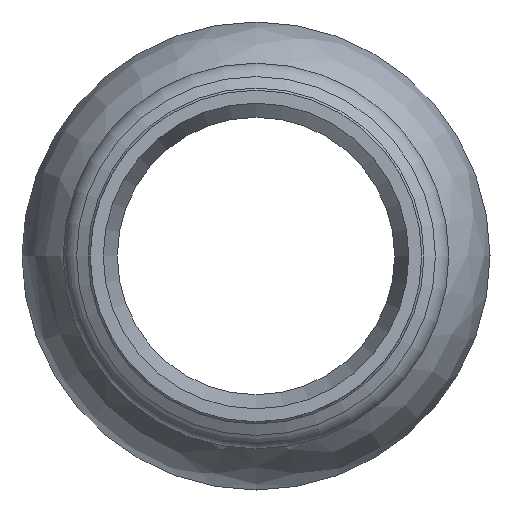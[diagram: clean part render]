
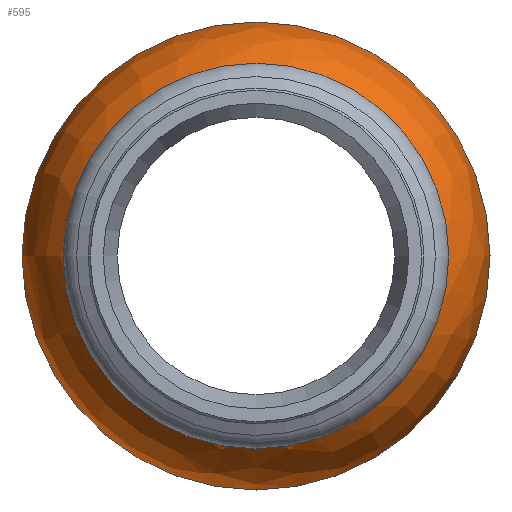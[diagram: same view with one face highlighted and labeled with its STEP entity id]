
A CAD part, left-side view. The second image highlights one B-rep face of the part: STEP entity #595.
In plain terms, the highlighted free-form (B-spline) face has degree [2, 2] with [5, 9] control points.
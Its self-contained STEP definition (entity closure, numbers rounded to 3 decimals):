
#513=CARTESIAN_POINT('',(-1.104,41.856,0.0));
#514=VERTEX_POINT('',#513);
#515=CARTESIAN_POINT('',(-1.104,23.3,0.0));
#516=DIRECTION('',(1.0,0.0,0.0));
#517=DIRECTION('',(0.0,1.0,0.0));
#518=AXIS2_PLACEMENT_3D('',#515,#516,#517);
#519=CIRCLE('',#518,18.556);
#520=EDGE_CURVE('',#514,#514,#519,.T.);
#528=CARTESIAN_POINT('',(1.381,23.3,0.));
#529=CARTESIAN_POINT('',(-5.861,23.3,7.649));
#530=CARTESIAN_POINT('',(-1.697,23.3,17.325));
#531=CARTESIAN_POINT('',(2.467,23.3,27.));
#532=CARTESIAN_POINT('',(13.,23.3,27.));
#533=CARTESIAN_POINT('',(1.381,23.3,0.));
#534=CARTESIAN_POINT('',(-5.861,30.949,7.649));
#535=CARTESIAN_POINT('',(-1.697,40.625,17.325));
#536=CARTESIAN_POINT('',(2.467,50.3,27.));
#537=CARTESIAN_POINT('',(13.,50.3,27.));
#538=CARTESIAN_POINT('',(1.381,23.3,0.));
#539=CARTESIAN_POINT('',(-5.861,30.949,0.));
#540=CARTESIAN_POINT('',(-1.697,40.625,0.0));
#541=CARTESIAN_POINT('',(2.467,50.3,0.));
#542=CARTESIAN_POINT('',(13.,50.3,0.));
#543=CARTESIAN_POINT('',(1.381,23.3,0.));
#544=CARTESIAN_POINT('',(-5.861,30.949,-7.649));
#545=CARTESIAN_POINT('',(-1.697,40.625,-17.325));
#546=CARTESIAN_POINT('',(2.467,50.3,-27.));
#547=CARTESIAN_POINT('',(13.,50.3,-27.));
#548=CARTESIAN_POINT('',(1.381,23.3,0.));
#549=CARTESIAN_POINT('',(-5.861,23.3,-7.649));
#550=CARTESIAN_POINT('',(-1.697,23.3,-17.325));
#551=CARTESIAN_POINT('',(2.467,23.3,-27.));
#552=CARTESIAN_POINT('',(13.,23.3,-27.));
#553=CARTESIAN_POINT('',(1.381,23.3,0.));
#554=CARTESIAN_POINT('',(-5.861,15.651,-7.649));
#555=CARTESIAN_POINT('',(-1.697,5.975,-17.325));
#556=CARTESIAN_POINT('',(2.467,-3.7,-27.));
#557=CARTESIAN_POINT('',(13.,-3.7,-27.));
#558=CARTESIAN_POINT('',(1.381,23.3,0.));
#559=CARTESIAN_POINT('',(-5.861,15.651,0.));
#560=CARTESIAN_POINT('',(-1.697,5.975,0.0));
#561=CARTESIAN_POINT('',(2.467,-3.7,0.));
#562=CARTESIAN_POINT('',(13.,-3.7,0.));
#563=CARTESIAN_POINT('',(1.381,23.3,0.));
#564=CARTESIAN_POINT('',(-5.861,15.651,7.649));
#565=CARTESIAN_POINT('',(-1.697,5.975,17.325));
#566=CARTESIAN_POINT('',(2.467,-3.7,27.));
#567=CARTESIAN_POINT('',(13.,-3.7,27.));
#568=CARTESIAN_POINT('',(1.381,23.3,0.));
#569=CARTESIAN_POINT('',(-5.861,23.3,7.649));
#570=CARTESIAN_POINT('',(-1.697,23.3,17.325));
#571=CARTESIAN_POINT('',(2.467,23.3,27.));
#572=CARTESIAN_POINT('',(13.,23.3,27.));
#580=(BOUNDED_SURFACE()B_SPLINE_SURFACE(2,2,((#528,#533,#538,#543,#548,#553,#558,#563,#568),(#529,#534,#539,#544,#549,#554,#559,#564,#569),(#530,#535,#540,#545,#550,#555,#560,#565,#570),(#531,#536,#541,#546,#551,#556,#561,#566,#571),(#532,#537,#542,#547,#552,#557,#562,#567,#572)),.UNSPECIFIED.,.F.,.T.,.U.)B_SPLINE_SURFACE_WITH_KNOTS((3,2,3),(3,2,2,2,3),(-2.329,-1.164,0.0),(0.0,1.571,3.142,4.712,6.283),.UNSPECIFIED.)GEOMETRIC_REPRESENTATION_ITEM()RATIONAL_B_SPLINE_SURFACE(((1.0,0.707,1.0,0.707,1.0,0.707,1.0,0.707,1.0),(0.835,0.591,0.835,0.591,0.835,0.591,0.835,0.591,0.835),(1.0,0.707,1.0,0.707,1.0,0.707,1.0,0.707,1.0),(0.835,0.591,0.835,0.591,0.835,0.591,0.835,0.591,0.835),(1.0,0.707,1.0,0.707,1.0,0.707,1.0,0.707,1.0)))REPRESENTATION_ITEM('')SURFACE());
#581=CARTESIAN_POINT('',(13.,50.3,0.0));
#582=VERTEX_POINT('',#581);
#583=CARTESIAN_POINT('',(13.,23.3,0.0));
#584=DIRECTION('',(1.0,0.0,0.0));
#585=DIRECTION('',(0.0,1.0,0.0));
#586=AXIS2_PLACEMENT_3D('',#583,#584,#585);
#587=CIRCLE('',#586,27.);
#588=EDGE_CURVE('',#582,#582,#587,.T.);
#589=ORIENTED_EDGE('',*,*,#588,.F.);
#590=EDGE_LOOP('',(#589));
#591=FACE_OUTER_BOUND('',#590,.T.);
#592=ORIENTED_EDGE('',*,*,#520,.T.);
#593=EDGE_LOOP('',(#592));
#594=FACE_BOUND('',#593,.T.);
#595=ADVANCED_FACE('',(#591,#594),#580,.T.);
